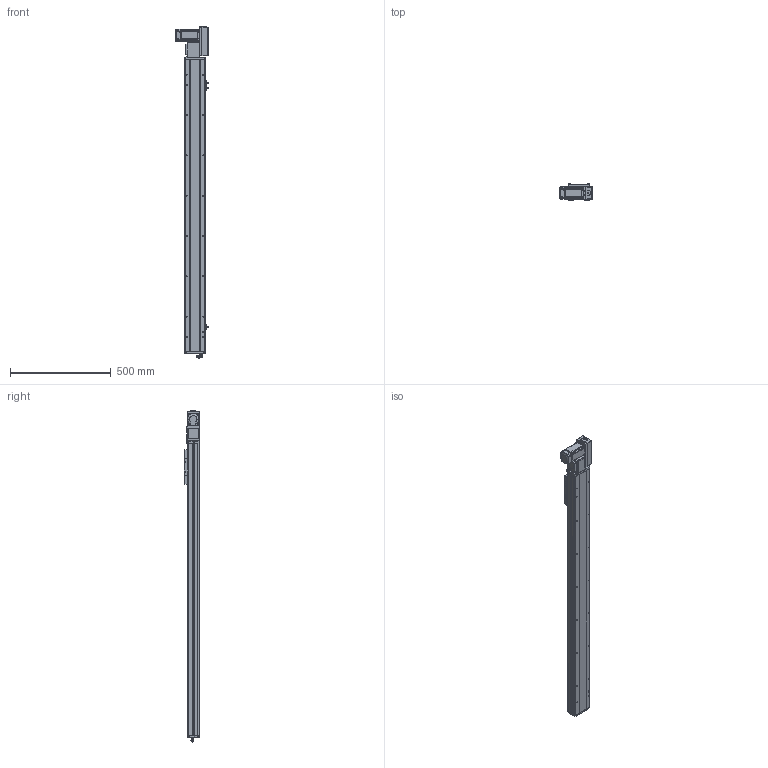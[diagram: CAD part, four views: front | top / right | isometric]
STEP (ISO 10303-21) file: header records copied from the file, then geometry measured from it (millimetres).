
FILE_DESCRIPTION (( 'STEP AP214' ), '1' );
FILE_NAME ('TPE10-L41.6-1200-R-P20-C4.STEP', '2023-03-13T02:50:34', ( '' ), ( '' ), 'SwSTEP 2.0', 'SolidWorks 2020', '' );
FILE_SCHEMA (( 'AUTOMOTIVE_DESIGN' ));
Length unit declared in the file: millimetre
Products named in the file (16): 葩璃 TPF10 詩湍揤啣 TPF10 12^TPE10-L41.6-R-P20-C4; 葩璃 TPE10-L-002 耜裔ZTMT-102B-04^TPE10-L41.6-R-P20-C4; 葩璃 TPE10-007 々湍釱MZ-169x88^TPE10-L41.6-R-P20-C4; 葩璃 PL8-02^TPE10-L41.6-R-P20-C4; TPE10-L41.6-1200-R-P20-C4; 葩璃 TPE10-L-001 菁釱MZ-102A-01^TPE10-L41.6-R-P20-C4; hex nuts, style 1-grades ab gb_GB_FASTENER_NUT_SNAB1 M3-N; 葩璃 TPT10-L-009 萇儂啣^TPE10-L41.6-R-P20-C4_200W; 葩璃 侂狟400W^TPE10-L41.6-R-P20-C4; 葩璃 侂狟100W^TPE10-L41.6-R-P20-C4; 葩璃 TPF10-L-008 耜醱啣^TPE10-L41.6-R-P20-C4; hexagon head bolts-full thread gb_GB_FASTENER_BOLT_STBAB A M5X16-N; hexagon socket head cap screws gb_GB_FASTENER_SCREWS_HSHCS M3X6-N; 葩璃 TPE10 賑雄殤 TPE10^TPE10-L41.6-R-P20-C4; 葩璃 詩湍75^TPE10-L41.6-R-P20-C4; 葩璃 pm-t65-672^TPE10-L41.6-R-P20-C4
Assembly tree (29 placements, depth 2):
  TPE10-L41.6-1200-R-P20-C4
    葩璃 TPE10-L-001 菁釱MZ-102A-01^TPE10-L41.6-R-P20-C4
    葩璃 TPE10-L-002 耜裔ZTMT-102B-04^TPE10-L41.6-R-P20-C4  x2
    葩璃 詩湍75^TPE10-L41.6-R-P20-C4
    葩璃 TPE10-007 々湍釱MZ-169x88^TPE10-L41.6-R-P20-C4
    葩璃 TPF10-L-008 耜醱啣^TPE10-L41.6-R-P20-C4
    葩璃 TPE10 賑雄殤 TPE10^TPE10-L41.6-R-P20-C4
    葩璃 TPF10 詩湍揤啣 TPF10 12^TPE10-L41.6-R-P20-C4  x2
    葩璃 TPT10-L-009 萇儂啣^TPE10-L41.6-R-P20-C4_200W
    葩璃 pm-t65-672^TPE10-L41.6-R-P20-C4  x3
    葩璃 PL8-02^TPE10-L41.6-R-P20-C4
    葩璃 侂狟100W^TPE10-L41.6-R-P20-C4
    葩璃 侂狟400W^TPE10-L41.6-R-P20-C4
    hexagon socket head cap screws gb_GB_FASTENER_SCREWS_HSHCS M3X6-N  x6
    hex nuts, style 1-grades ab gb_GB_FASTENER_NUT_SNAB1 M3-N  x6
    hexagon head bolts-full thread gb_GB_FASTENER_BOLT_STBAB A M5X16-N
Bounding box: 162.5 x 78.5 x 1647 mm (x, y, z)
Volume: 5271500.6 mm3; surface area: 1300201.8 mm2
Topology: 37 solids, 37 shells, 2045 faces, 5241 edges, 3324 vertices
Faces by surface type: plane 1106, cylinder 645, cone 224, bspline 42, torus 26, sphere 2
Entity records: 51216 total; most frequent: CARTESIAN_POINT 10554, DIRECTION 8224, ORIENTED_EDGE 7906, EDGE_CURVE 3953, AXIS2_PLACEMENT_3D 2892, VERTEX_POINT 2551, LINE 2440, VECTOR 2440
